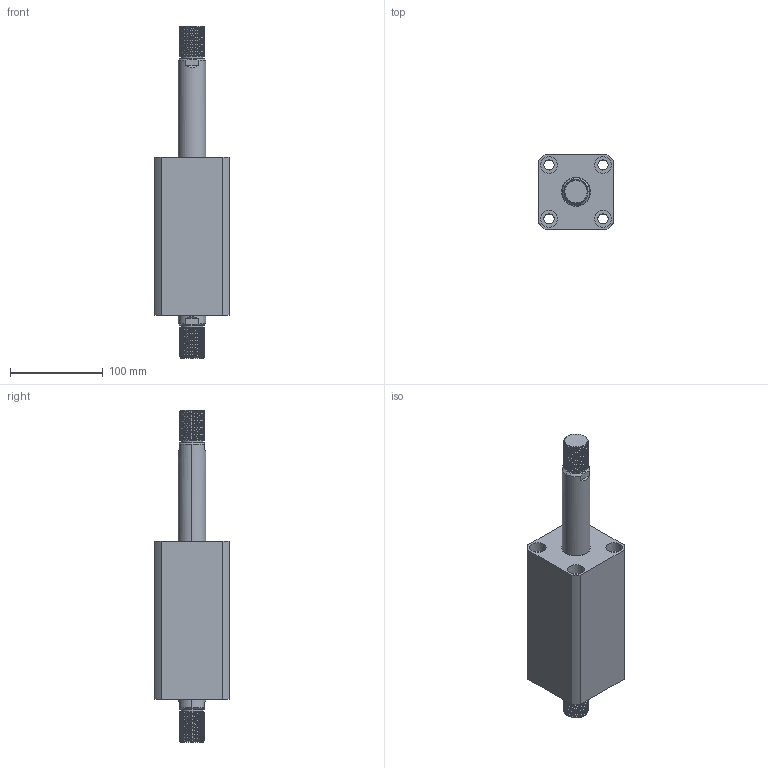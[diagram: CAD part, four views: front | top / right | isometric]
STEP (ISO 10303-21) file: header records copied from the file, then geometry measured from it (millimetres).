
FILE_DESCRIPTION (( 'STEP AP203' ), '1' );
FILE_NAME ('CHTB-SW50-95W.STEP', '2018-05-21T07:54:57', ( '' ), ( '' ), 'SwSTEP 2.0', 'SolidWorks 2015', '' );
FILE_SCHEMA (( 'CONFIG_CONTROL_DESIGN' ));
Length unit declared in the file: millimetre
Products named in the file (4): 活塞杆SW50-95W; ヶ裔; CHTB-SW50-95W; 掛极SW50-95W
Assembly tree (3 placements, depth 2):
  CHTB-SW50-95W
    掛极SW50-95W
    活塞杆SW50-95W
    ヶ裔
Bounding box: 80 x 80 x 357 mm (x, y, z)
Volume: 983602 mm3; surface area: 172984.4 mm2
Topology: 3 solids, 3 shells, 314 faces, 794 edges, 514 vertices
Faces by surface type: cylinder 202, plane 51, cone 29, torus 24, bspline 8
Entity records: 17377 total; most frequent: CARTESIAN_POINT 10049, ORIENTED_EDGE 1580, DIRECTION 1358, EDGE_CURVE 790, AXIS2_PLACEMENT_3D 549, VERTEX_POINT 514, EDGE_LOOP 362, ADVANCED_FACE 314
